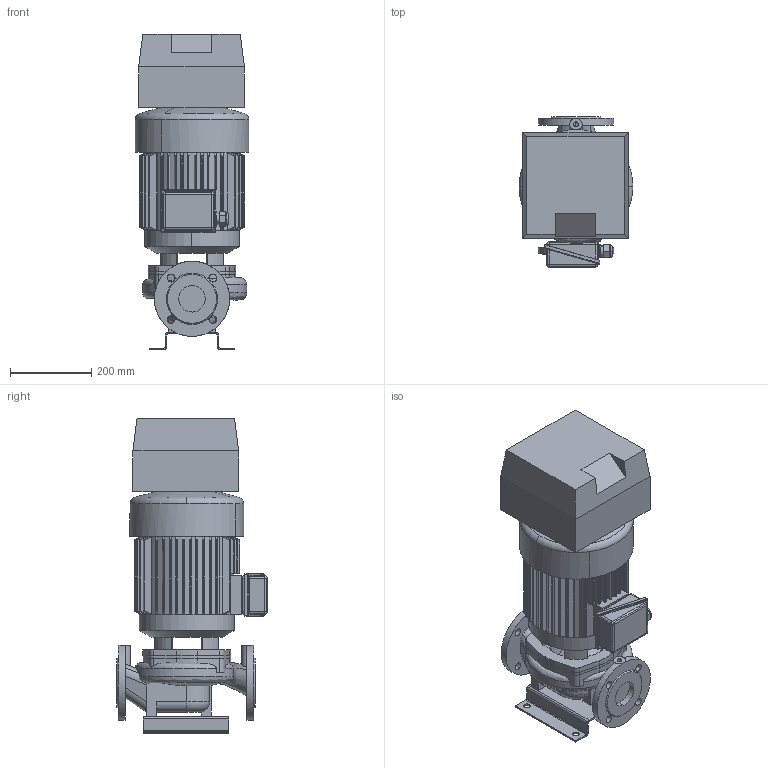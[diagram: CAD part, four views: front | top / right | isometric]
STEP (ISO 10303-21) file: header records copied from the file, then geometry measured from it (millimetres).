
FILE_DESCRIPTION(('STEP AP214'),'1');
FILE_NAME('export.stp','2018-08-08T13:35:53',(' '),(' '),'Spatial InterOp 3D',' ',' ');
FILE_SCHEMA(('AUTOMOTIVE_DESIGN { 1 0 10303 214 1 1 1 1 }'));
Length unit declared in the file: millimetre
Products named in the file (12): W_L65A4770_withou; V_TLL65AB80A1102; V_PPL65AB; V_JALKA35973; W_L65B2NC750KP; V_MOKN132; RU_OKN_132; TSUOJA_OKN_132_133; KYTKOTELO_OKN_100_133; V_Mkp-132_F19; V_EKF19OKN132; NC_Size2
Assembly tree (11 placements, depth 4):
  W_L65B2NC750KP
    W_L65A4770_withou
      V_TLL65AB80A1102
      V_PPL65AB
      V_JALKA35973
    V_Mkp-132_F19
      V_MOKN132
        RU_OKN_132
        TSUOJA_OKN_132_133
        KYTKOTELO_OKN_100_133
      V_EKF19OKN132
    NC_Size2
Bounding box: 280 x 369.5 x 775.5 mm (x, y, z)
Volume: 35453931.8 mm3; surface area: 1754366.3 mm2
Topology: 8 solids, 9 shells, 809 faces, 2106 edges, 1316 vertices
Faces by surface type: cylinder 352, plane 297, cone 94, bspline 40, torus 14, sphere 12
Entity records: 43803 total; most frequent: CARTESIAN_POINT 10524, ORIENTED_EDGE 4168, DIRECTION 3854, STYLED_ITEM 2317, PRESENTATION_STYLE_ASSIGNMENT 2317, COLOUR_RGB 2317, EDGE_CURVE 2084, AXIS2_PLACEMENT_3D 1512
